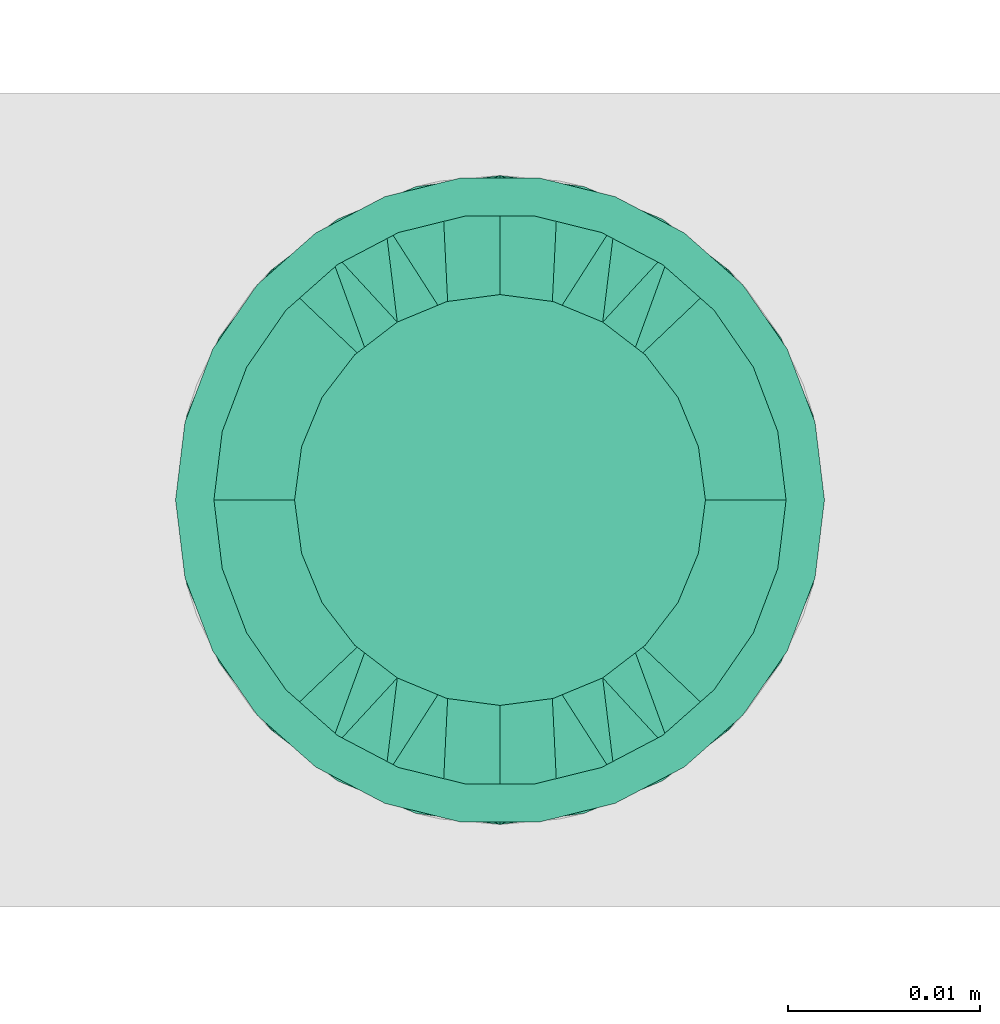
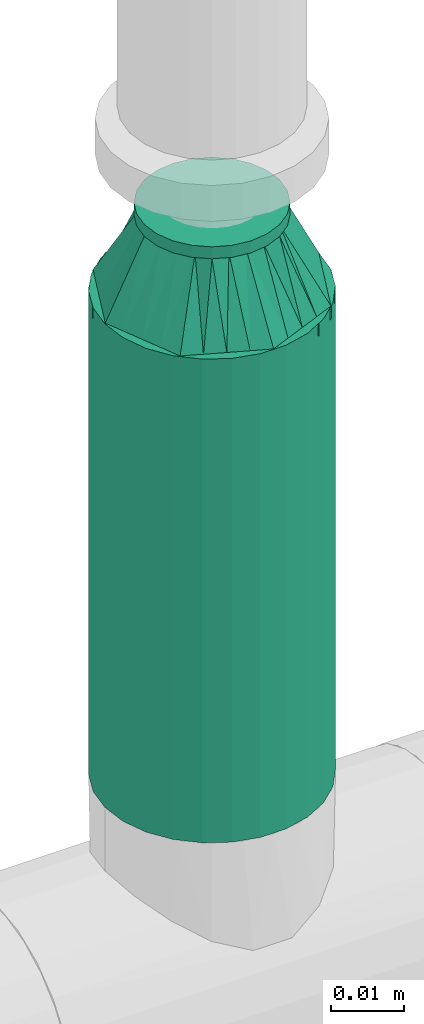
# One storey, part 80 of 94: 1 flow fitting, 1 flow segment.
"""IFC2X3 building model written with IfcOpenShell, lengths in millimetres."""

from ifc_helpers import new_model, entity, si_unit, converted_unit, derived_unit, direction, frame, origin_with_axes, origin_2d_with_axis, place, context, subcontext, project, spatial, hollow_circle, extrude, open_shell, surface_model, source, transform, mapped, type_object, element, save


model = new_model("IFC2X3")

# Units and contexts
model_context = context("Model", 3, precision=0.01, world=frame((0.0, 4.29681676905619e-09, 0.0)), true_north=direction((4.01073788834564e-13, 1.0)))
plan_context = context("Plan", 3, precision=0.01, world=frame((0.0, 4.29681676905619e-09, 0.0)), true_north=direction((4.01073788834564e-13, 1.0)))
body_context = subcontext(model_context, "Body", "Model", "MODEL_VIEW")
ifc_project = project(units=[converted_unit("PLANEANGLEUNIT", "DEGREE", entity("IfcPositiveLengthMeasure", 0.0174532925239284), si_unit("PLANEANGLEUNIT", "RADIAN"), dimensions=[0, 0, 0, 0, 0, 0, 0]), si_unit("AREAUNIT", "SQUARE_METRE"), si_unit("LENGTHUNIT", "METRE", prefix="MILLI"), si_unit("MASSUNIT", "GRAM", prefix="KILO"), si_unit("POWERUNIT", "WATT"), si_unit("PRESSUREUNIT", "PASCAL"), si_unit("FORCEUNIT", "NEWTON", prefix="KILO"), si_unit("ELECTRICCURRENTUNIT", "AMPERE"), si_unit("THERMODYNAMICTEMPERATUREUNIT", "DEGREE_CELSIUS"), si_unit("TIMEUNIT", "SECOND"), si_unit("VOLUMEUNIT", "CUBIC_METRE"), derived_unit("LINEARVELOCITYUNIT", [(si_unit("LENGTHUNIT", "METRE"), 1), (si_unit("TIMEUNIT", "SECOND"), -1)]), derived_unit("VOLUMETRICFLOWRATEUNIT", [(si_unit("VOLUMEUNIT", "CUBIC_METRE"), 1), (si_unit("TIMEUNIT", "SECOND"), -1)]), derived_unit("THERMALTRANSMITTANCEUNIT", [(si_unit("POWERUNIT", "WATT"), 1), (si_unit("THERMODYNAMICTEMPERATUREUNIT", "KELVIN"), -1), (si_unit("AREAUNIT", "SQUARE_METRE"), -1)])], contexts=[model_context, plan_context])

# Site, building, storey
site_placement = place(None, frame((0.0, -4.29681676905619e-09, 0.0), z_axis=(0.0, 0.0, 1.0), x_axis=(1.0, 0.0, 0.0)))
site = spatial("IfcSite", under=ifc_project, at=site_placement, CompositionType="ELEMENT")
building_placement = place(site_placement, frame((0.0, 4.29681676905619e-09, 0.0), z_axis=(0.0, 0.0, 1.0), x_axis=(1.0, 0.0, 0.0)))
building = spatial("IfcBuilding", under=site, at=building_placement, Name="mc-building", CompositionType="ELEMENT")
storey_placement = place(building_placement, frame((0.0, 0.0, 200300.0), z_axis=(0.0, 0.0, 1.0), x_axis=(1.0, 0.0, 0.0)))
storey = spatial("IfcBuildingStorey", under=building, at=storey_placement, Name="Nivå C", CompositionType="ELEMENT", Elevation=200300.0)

# Flow fitting
pipe_fitting_type = type_object("IfcPipeFittingType", Name="magi_pipe_fe_reducer_centric_short_NOR", PredefinedType="TRANSITION")
shared_shape_1 = source(origin_with_axes(), body_context, "Body", "SurfaceModel", [
    surface_model("IfcShellBasedSurfaceModel", [(14.4, 5.35, -9.26647), (14.4, 0.0, -10.7), (14.4, 2.76936, -10.33541), (14.4, 10.33541, -2.76936), (14.4, 7.56604, -7.56604), (14.4, -10.33541, -2.76936), (14.4, 9.26647, -5.35), (14.4, 0.0, 10.7), (14.4, -5.35, -9.26647), (14.4, -2.76936, -10.33541), (14.4, -7.56604, -7.56604), (14.4, -9.26647, -5.35), (14.4, 10.7, 0.0), (14.4, 10.33541, 2.76936), (14.4, 9.26647, 5.35), (14.4, 7.56604, 7.56604), (14.4, 2.76936, 10.33541), (14.4, 5.35, 9.26647), (14.4, -10.33541, 2.76936), (14.4, -7.56604, 7.56604), (14.4, -9.26647, 5.35), (14.4, -10.7, 0.0), (14.4, -2.76936, 10.33541), (14.4, -5.35, 9.26647), (12.4, 2.76936, 10.33541), (12.4, -10.33541, -2.76936), (12.4, 0.0, 10.7), (12.4, 5.35, 9.26647), (12.4, 7.56604, 7.56604), (12.4, 9.26647, 5.35), (12.4, 10.33541, 2.76936), (12.4, -10.33541, 2.76936), (12.4, -2.76936, 10.33541), (12.4, -7.56604, 7.56604), (12.4, -5.35, 9.26647), (12.4, -9.26647, 5.35), (12.4, -10.7, 0.0), (12.4, 10.33541, -2.76936), (12.4, 5.35, -9.26647), (12.4, 9.26647, -5.35), (12.4, 7.56604, -7.56604), (12.4, 2.76936, -10.33541), (12.4, -9.26647, -5.35), (12.4, -5.35, -9.26647), (12.4, -7.56604, -7.56604), (12.4, 0.0, -10.7), (12.4, -2.76936, -10.33541), (12.4, 10.7, 0.0), (-2.0, 11.9501, 11.9501), (-2.0, 0.0, 16.9), (-2.0, 4.37404, 16.32415), (-2.0, 8.45, 14.63583), (-2.0, 14.63583, 8.45), (-2.0, 16.32415, 4.37404), (-2.0, -16.32415, 4.37404), (-2.0, -8.45, 14.63583), (-2.0, -14.63583, 8.45), (-2.0, -11.9501, 11.9501), (-2.0, -4.37404, 16.32415), (-2.0, -16.32415, -4.37404), (-2.0, -16.9, 0.0), (-2.0, -8.45, -14.63583), (-2.0, 16.32415, -4.37404), (-2.0, 11.9501, -11.9501), (-2.0, 14.63583, -8.45), (-2.0, 8.45, -14.63583), (-2.0, 4.37404, -16.32415), (-2.0, 0.0, -16.9), (-2.0, -11.9501, -11.9501), (-2.0, -14.63583, -8.45), (-2.0, -4.37404, -16.32415), (-2.0, 16.9, 0.0), (0.0, 4.37404, -16.32415), (0.0, 8.45, -14.63583), (0.0, 11.9501, -11.9501), (0.0, 0.0, -16.9), (0.0, 16.32415, -4.37404), (0.0, 16.32415, 4.37404), (0.0, 14.63583, -8.45), (0.0, -8.45, -14.63583), (0.0, -4.37404, -16.32415), (0.0, -11.9501, -11.9501), (0.0, -16.32415, -4.37404), (0.0, -14.63583, -8.45), (0.0, -16.32415, 4.37404), (0.0, 16.9, 0.0), (0.0, 14.63583, 8.45), (0.0, 11.9501, 11.9501), (0.0, 4.37404, 16.32415), (0.0, 8.45, 14.63583), (0.0, 0.0, 16.9), (0.0, -14.63583, 8.45), (0.0, -16.9, 0.0), (0.0, -8.45, 14.63583), (0.0, -11.9501, 11.9501), (0.0, -4.37404, 16.32415), (12.4, 9.3625, -2.31662), (0.0, 14.42505, -5.97505), (0.0, 15.66253, -2.98753), (12.4, -6.6875, -6.94985), (0.0, -13.18758, -8.96258), (0.0, 2.98753, -15.66253), (12.4, 0.0, -9.26647), (12.4, 6.6875, -6.94985), (0.0, 8.96258, -13.18758), (12.4, -9.3625, -2.31662), (0.0, -15.66253, -2.98753), (0.0, -14.42505, -5.97505), (0.0, 5.97505, -14.42505), (0.0, -2.98753, -15.66253), (0.0, -8.96258, -13.18758), (0.0, 13.18758, -8.96258), (12.4, 8.025, -4.63324), (12.4, -2.675, -9.26647), (12.4, 2.675, -9.26647), (0.0, -5.97505, -14.42505), (12.4, -8.025, -4.63324), (12.4, -9.3625, 2.31662), (0.0, -14.42505, 5.97505), (0.0, -15.66253, 2.98753), (12.4, 6.6875, 6.94985), (0.0, 13.18758, 8.96258), (0.0, -2.98753, 15.66253), (12.4, 0.0, 9.26647), (12.4, -6.6875, 6.94985), (0.0, -8.96258, 13.18758), (12.4, 9.3625, 2.31662), (0.0, 15.66253, 2.98753), (0.0, 14.42505, 5.97505), (0.0, -5.97505, 14.42505), (0.0, 2.98753, 15.66253), (0.0, 8.96258, 13.18758), (0.0, -13.18758, 8.96258), (12.4, -8.025, 4.63324), (12.4, 2.675, 9.26647), (12.4, -2.675, 9.26647), (0.0, 5.97505, 14.42505), (12.4, 8.025, 4.63324)], [open_shell([[[0, 1, 2]], [[3, 0, 4]], [[5, 0, 3]], [[3, 4, 6]], [[7, 5, 3]], [[1, 8, 9]], [[1, 0, 8]], [[10, 5, 11]], [[5, 10, 8]], [[0, 5, 8]], [[3, 12, 13]], [[13, 14, 15]], [[13, 15, 16]], [[7, 3, 16]], [[16, 15, 17]], [[7, 18, 5]], [[18, 19, 20]], [[21, 5, 18]], [[19, 22, 23]], [[22, 19, 18]], [[7, 22, 18]], [[13, 16, 3]], [[24, 25, 26]], [[27, 25, 24]], [[28, 29, 30]], [[28, 25, 27]], [[31, 26, 25]], [[32, 33, 34]], [[33, 32, 31]], [[33, 31, 35]], [[32, 26, 31]], [[31, 25, 36]], [[30, 37, 28]], [[25, 28, 37]], [[38, 37, 39]], [[37, 38, 25]], [[38, 39, 40]], [[41, 25, 38]], [[42, 43, 44]], [[43, 42, 25]], [[43, 45, 46]], [[43, 25, 41]], [[41, 45, 43]], [[37, 30, 47]], [[25, 5, 36]], [[42, 11, 25]], [[8, 44, 43]], [[42, 44, 10]], [[9, 43, 46]], [[25, 11, 5]], [[5, 21, 36]], [[9, 8, 43]], [[10, 44, 8]], [[10, 11, 42]], [[1, 9, 46]], [[46, 45, 1]], [[41, 2, 45]], [[38, 0, 41]], [[6, 40, 39]], [[38, 40, 4]], [[3, 39, 37]], [[38, 4, 0]], [[0, 2, 41]], [[12, 3, 37]], [[6, 39, 3]], [[6, 4, 40]], [[47, 12, 37]], [[45, 2, 1]], [[30, 13, 47]], [[29, 14, 30]], [[17, 28, 27]], [[29, 28, 15]], [[16, 27, 24]], [[30, 14, 13]], [[13, 12, 47]], [[16, 17, 27]], [[15, 28, 17]], [[15, 14, 29]], [[7, 16, 24]], [[24, 26, 7]], [[32, 22, 26]], [[34, 23, 32]], [[20, 33, 35]], [[34, 33, 19]], [[18, 35, 31]], [[34, 19, 23]], [[23, 22, 32]], [[21, 18, 31]], [[20, 35, 18]], [[20, 19, 33]], [[36, 21, 31]], [[26, 22, 7]], [[48, 49, 50]], [[48, 50, 51]], [[48, 52, 53]], [[48, 53, 49]], [[49, 53, 54]], [[55, 56, 57]], [[55, 58, 49]], [[56, 55, 49]], [[49, 54, 56]], [[54, 59, 60]], [[54, 53, 61]], [[53, 62, 63]], [[63, 62, 64]], [[63, 65, 66]], [[61, 53, 63]], [[67, 63, 66]], [[59, 68, 69]], [[68, 59, 61]], [[61, 67, 70]], [[59, 54, 61]], [[63, 67, 61]], [[53, 71, 62]], [[72, 73, 74]], [[75, 72, 74]], [[74, 76, 77]], [[76, 74, 78]], [[74, 77, 79]], [[75, 79, 80]], [[75, 74, 79]], [[81, 82, 83]], [[82, 81, 79]], [[79, 84, 82]], [[77, 76, 85]], [[77, 86, 87]], [[77, 87, 88]], [[88, 84, 79]], [[88, 87, 89]], [[84, 88, 90]], [[90, 91, 84]], [[92, 82, 84]], [[91, 93, 94]], [[91, 90, 93]], [[93, 90, 95]], [[79, 77, 88]], [[59, 82, 60]], [[69, 83, 59]], [[79, 68, 61]], [[69, 68, 81]], [[80, 61, 70]], [[59, 83, 82]], [[82, 92, 60]], [[80, 79, 61]], [[81, 68, 79]], [[81, 83, 69]], [[75, 80, 70]], [[70, 67, 75]], [[66, 72, 67]], [[65, 73, 66]], [[78, 63, 64]], [[65, 63, 74]], [[76, 64, 62]], [[65, 74, 73]], [[73, 72, 66]], [[85, 76, 62]], [[78, 64, 76]], [[78, 74, 63]], [[71, 85, 62]], [[67, 72, 75]], [[53, 77, 71]], [[52, 86, 53]], [[89, 48, 51]], [[52, 48, 87]], [[88, 51, 50]], [[53, 86, 77]], [[77, 85, 71]], [[88, 89, 51]], [[87, 48, 89]], [[87, 86, 52]], [[90, 88, 50]], [[50, 49, 90]], [[58, 95, 49]], [[55, 93, 58]], [[91, 57, 56]], [[55, 57, 94]], [[84, 56, 54]], [[55, 94, 93]], [[93, 95, 58]], [[92, 84, 54]], [[91, 56, 84]], [[91, 94, 57]], [[60, 92, 54]], [[49, 95, 90]], [[27, 34, 47]], [[47, 34, 43]], [[43, 38, 47]], [[43, 34, 36]], [[90, 87, 94]], [[92, 94, 87]], [[87, 74, 92]], [[75, 92, 74]], [[81, 92, 75]], [[74, 87, 85]], [[96, 97, 98]], [[81, 99, 100]], [[101, 102, 75]], [[98, 85, 47]], [[74, 103, 104]], [[104, 103, 38]], [[105, 106, 107]], [[38, 108, 104]], [[102, 109, 75]], [[110, 99, 81]], [[47, 96, 98]], [[103, 111, 112]], [[109, 102, 113]], [[36, 92, 106]], [[102, 101, 114]], [[110, 115, 43]], [[96, 112, 97]], [[107, 116, 105]], [[36, 106, 105]], [[113, 115, 109]], [[43, 115, 113]], [[116, 107, 100]], [[108, 38, 114]], [[111, 103, 74]], [[111, 97, 112]], [[99, 110, 43]], [[116, 100, 99]], [[101, 108, 114]], [[117, 118, 119]], [[87, 120, 121]], [[122, 123, 90]], [[119, 92, 36]], [[94, 124, 125]], [[125, 124, 34]], [[126, 127, 128]], [[34, 129, 125]], [[123, 130, 90]], [[131, 120, 87]], [[36, 117, 119]], [[124, 132, 133]], [[130, 123, 134]], [[47, 85, 127]], [[123, 122, 135]], [[131, 136, 27]], [[117, 133, 118]], [[128, 137, 126]], [[47, 127, 126]], [[134, 136, 130]], [[27, 136, 134]], [[137, 128, 121]], [[129, 34, 135]], [[132, 124, 94]], [[132, 118, 133]], [[120, 131, 27]], [[137, 121, 120]], [[122, 129, 135]]])]),
])
flow_fitting_placement = place(storey_placement, frame((518493.12395, 418699.60987, 2962.64799999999), z_axis=(0.0, -1.0, 0.0), x_axis=(0.0, 0.0, 1.0)))
element("IfcFlowFitting", 1, at=flow_fitting_placement, inside=storey, type_object=pipe_fitting_type, Name="magi_pipe_fe_reducer_centric_short_NOR", context=body_context, shape_type="MappedRepresentation", body=[
    mapped(shared_shape_1, transform((0.0, 0.0, 0.0), scale=1.0)),
])

# Flow segment
pipe_segment_type = type_object("IfcPipeSegmentType", Name="Stålrør normaltykke", PredefinedType="RIGIDSEGMENT")
shared_shape_2 = source(origin_with_axes(), body_context, "Body", "SweptSolid", [
    extrude(hollow_circle(Radius=16.9, WallThickness=2.0, at=origin_2d_with_axis()), frame((0.0, 0.0, 0.0), z_axis=(1.0, 0.0, 0.0), x_axis=(0.0, 1.0, 0.0)), (0.0, 0.0, 1.0), 80.8),
])
flow_segment_placement = place(storey_placement, frame((518493.12395, 418699.60987, 2881.79999999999), z_axis=(0.0, 1.0, 0.0), x_axis=(0.0, 0.0, 1.0)))
element("IfcFlowSegment", 2, at=flow_segment_placement, inside=storey, type_object=pipe_segment_type, Name="Stålrør normaltykke", context=body_context, shape_type="MappedRepresentation", body=[
    mapped(shared_shape_2, transform((0.0, 0.0, 0.0), scale=1.0)),
])

save(model, "model.ifc")
